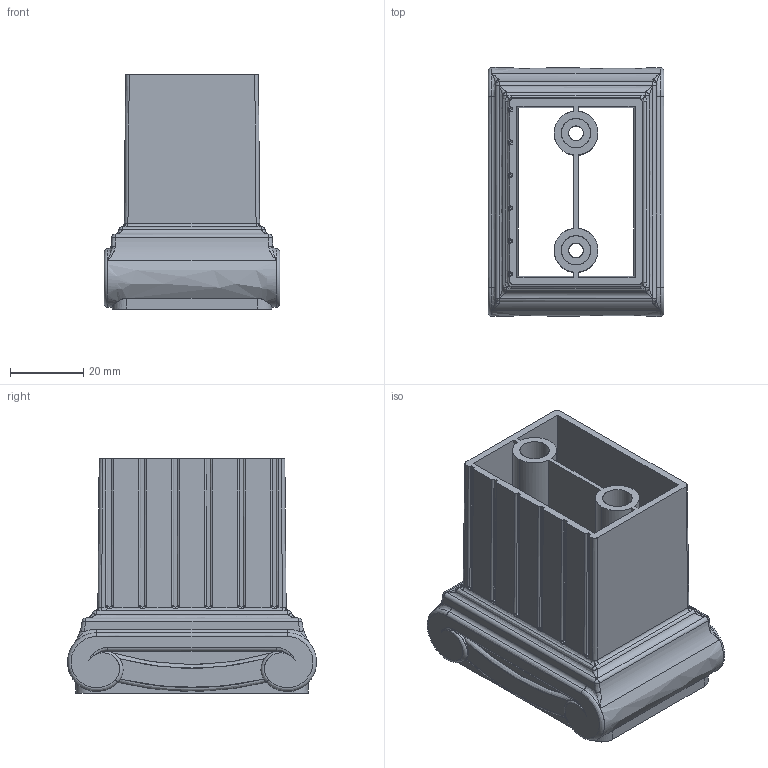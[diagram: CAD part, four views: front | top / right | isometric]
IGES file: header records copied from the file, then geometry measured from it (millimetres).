
Start section: C
Global section: file name: 8081.igs; native system: By Siemens PLM Incorporated; preprocessor: XPlus GENERIC/IGES 16.0.42; author: Author; organization: Title; date: 20231128.122823; units: millimetre
Bounding box: 48 x 68 x 64 mm (x, y, z)
Surface area: 36525.9 mm2 (no closed solid volume)
Topology: 0 solids, 0 shells, 284 faces, 1533 edges, 1513 vertices
Faces by surface type: bspline 284
